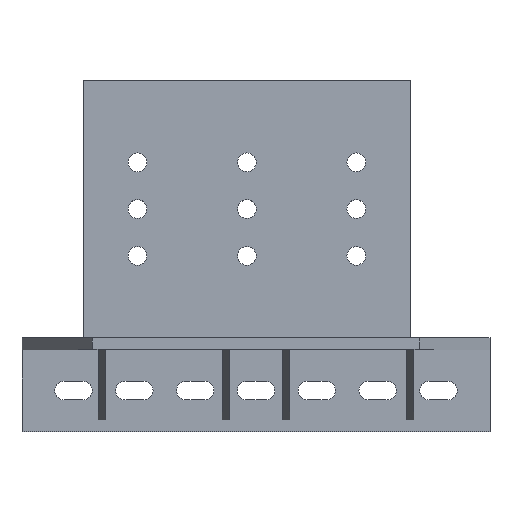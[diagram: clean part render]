
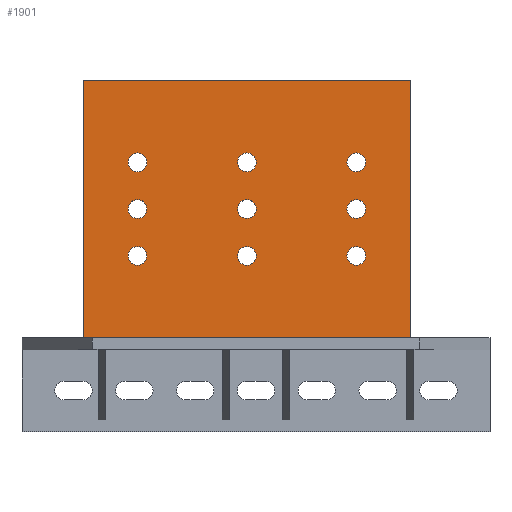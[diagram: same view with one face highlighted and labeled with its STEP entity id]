
A CAD part, top view. The second image highlights one B-rep face of the part: STEP entity #1901.
In plain terms, the highlighted planar face has unit normal (0, 0, 1).
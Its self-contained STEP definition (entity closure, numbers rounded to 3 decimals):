
#57=FACE_BOUND('',#291,.T.);
#58=FACE_BOUND('',#292,.T.);
#59=FACE_BOUND('',#293,.T.);
#60=FACE_BOUND('',#294,.T.);
#61=FACE_BOUND('',#295,.T.);
#62=FACE_BOUND('',#296,.T.);
#63=FACE_BOUND('',#297,.T.);
#64=FACE_BOUND('',#298,.T.);
#65=FACE_BOUND('',#299,.T.);
#93=CIRCLE('',#2014,101.6);
#94=CIRCLE('',#2016,101.6);
#95=CIRCLE('',#2018,101.6);
#96=CIRCLE('',#2020,101.6);
#97=CIRCLE('',#2022,101.6);
#98=CIRCLE('',#2024,101.6);
#99=CIRCLE('',#2026,101.6);
#100=CIRCLE('',#2028,101.6);
#101=CIRCLE('',#2030,101.6);
#176=FACE_OUTER_BOUND('',#290,.T.);
#290=EDGE_LOOP('',(#1436,#1437,#1438,#1439));
#291=EDGE_LOOP('',(#1440));
#292=EDGE_LOOP('',(#1441));
#293=EDGE_LOOP('',(#1442));
#294=EDGE_LOOP('',(#1443));
#295=EDGE_LOOP('',(#1444));
#296=EDGE_LOOP('',(#1445));
#297=EDGE_LOOP('',(#1446));
#298=EDGE_LOOP('',(#1447));
#299=EDGE_LOOP('',(#1448));
#454=LINE('',#2849,#669);
#456=LINE('',#2853,#671);
#458=LINE('',#2857,#673);
#460=LINE('',#2860,#675);
#669=VECTOR('',#2316,25.4);
#671=VECTOR('',#2320,25.4);
#673=VECTOR('',#2324,25.4);
#675=VECTOR('',#2328,25.4);
#859=VERTEX_POINT('',#2810);
#860=VERTEX_POINT('',#2814);
#861=VERTEX_POINT('',#2818);
#862=VERTEX_POINT('',#2822);
#863=VERTEX_POINT('',#2826);
#864=VERTEX_POINT('',#2830);
#865=VERTEX_POINT('',#2834);
#866=VERTEX_POINT('',#2838);
#867=VERTEX_POINT('',#2842);
#868=VERTEX_POINT('',#2846);
#869=VERTEX_POINT('',#2848);
#870=VERTEX_POINT('',#2852);
#871=VERTEX_POINT('',#2856);
#1055=EDGE_CURVE('',#859,#859,#93,.T.);
#1057=EDGE_CURVE('',#860,#860,#94,.T.);
#1059=EDGE_CURVE('',#861,#861,#95,.T.);
#1061=EDGE_CURVE('',#862,#862,#96,.T.);
#1063=EDGE_CURVE('',#863,#863,#97,.T.);
#1065=EDGE_CURVE('',#864,#864,#98,.T.);
#1067=EDGE_CURVE('',#865,#865,#99,.T.);
#1069=EDGE_CURVE('',#866,#866,#100,.T.);
#1071=EDGE_CURVE('',#867,#867,#101,.T.);
#1074=EDGE_CURVE('',#869,#868,#454,.T.);
#1076=EDGE_CURVE('',#870,#869,#456,.T.);
#1078=EDGE_CURVE('',#871,#870,#458,.T.);
#1080=EDGE_CURVE('',#868,#871,#460,.T.);
#1436=ORIENTED_EDGE('',*,*,#1080,.T.);
#1437=ORIENTED_EDGE('',*,*,#1078,.T.);
#1438=ORIENTED_EDGE('',*,*,#1076,.T.);
#1439=ORIENTED_EDGE('',*,*,#1074,.T.);
#1440=ORIENTED_EDGE('',*,*,#1071,.T.);
#1441=ORIENTED_EDGE('',*,*,#1069,.T.);
#1442=ORIENTED_EDGE('',*,*,#1067,.T.);
#1443=ORIENTED_EDGE('',*,*,#1065,.T.);
#1444=ORIENTED_EDGE('',*,*,#1063,.T.);
#1445=ORIENTED_EDGE('',*,*,#1061,.T.);
#1446=ORIENTED_EDGE('',*,*,#1059,.T.);
#1447=ORIENTED_EDGE('',*,*,#1057,.T.);
#1448=ORIENTED_EDGE('',*,*,#1055,.T.);
#1818=PLANE('',#2035);
#1901=ADVANCED_FACE('',(#176,#57,#58,#59,#60,#61,#62,#63,#64,#65),#1818,
 .T.);
#2014=AXIS2_PLACEMENT_3D('',#2811,#2270,#2271);
#2016=AXIS2_PLACEMENT_3D('',#2815,#2275,#2276);
#2018=AXIS2_PLACEMENT_3D('',#2819,#2280,#2281);
#2020=AXIS2_PLACEMENT_3D('',#2823,#2285,#2286);
#2022=AXIS2_PLACEMENT_3D('',#2827,#2290,#2291);
#2024=AXIS2_PLACEMENT_3D('',#2831,#2295,#2296);
#2026=AXIS2_PLACEMENT_3D('',#2835,#2300,#2301);
#2028=AXIS2_PLACEMENT_3D('',#2839,#2305,#2306);
#2030=AXIS2_PLACEMENT_3D('',#2843,#2310,#2311);
#2035=AXIS2_PLACEMENT_3D('',#2861,#2329,#2330);
#2270=DIRECTION('center_axis',(0.,0.,-1.));
#2271=DIRECTION('ref_axis',(0.,-1.,0.));
#2275=DIRECTION('center_axis',(0.,0.,-1.));
#2276=DIRECTION('ref_axis',(0.,1.,0.));
#2280=DIRECTION('center_axis',(0.,0.,-1.));
#2281=DIRECTION('ref_axis',(0.,1.,0.));
#2285=DIRECTION('center_axis',(0.,0.,-1.));
#2286=DIRECTION('ref_axis',(0.,-1.,0.));
#2290=DIRECTION('center_axis',(0.,0.,-1.));
#2291=DIRECTION('ref_axis',(0.,1.,0.));
#2295=DIRECTION('center_axis',(0.,0.,-1.));
#2296=DIRECTION('ref_axis',(0.,-1.,0.));
#2300=DIRECTION('center_axis',(0.,0.,-1.));
#2301=DIRECTION('ref_axis',(0.,1.,0.));
#2305=DIRECTION('center_axis',(0.,0.,-1.));
#2306=DIRECTION('ref_axis',(0.,1.,0.));
#2310=DIRECTION('center_axis',(0.,0.,-1.));
#2311=DIRECTION('ref_axis',(0.,-1.,0.));
#2316=DIRECTION('',(0.,1.,0.));
#2320=DIRECTION('',(1.,0.,0.));
#2324=DIRECTION('',(0.,-1.,0.));
#2328=DIRECTION('',(-1.,0.,0.));
#2329=DIRECTION('center_axis',(0.,0.,1.));
#2330=DIRECTION('ref_axis',(1.,0.,0.));
#2810=CARTESIAN_POINT('',(-2220.519,1934.662,381.));
#2811=CARTESIAN_POINT('Origin',(-2220.519,1833.062,381.));
#2814=CARTESIAN_POINT('',(-3407.969,1731.462,381.));
#2815=CARTESIAN_POINT('Origin',(-3407.969,1833.062,381.));
#2818=CARTESIAN_POINT('',(-2220.519,2239.462,381.));
#2819=CARTESIAN_POINT('Origin',(-2220.519,2341.062,381.));
#2822=CARTESIAN_POINT('',(-2220.519,1426.662,381.));
#2823=CARTESIAN_POINT('Origin',(-2220.519,1325.062,381.));
#2826=CARTESIAN_POINT('',(-3407.969,2239.462,381.));
#2827=CARTESIAN_POINT('Origin',(-3407.969,2341.062,381.));
#2830=CARTESIAN_POINT('',(-3407.969,1426.662,381.));
#2831=CARTESIAN_POINT('Origin',(-3407.969,1325.062,381.));
#2834=CARTESIAN_POINT('',(-4595.419,1731.462,381.));
#2835=CARTESIAN_POINT('Origin',(-4595.419,1833.062,381.));
#2838=CARTESIAN_POINT('',(-4595.419,2239.462,381.));
#2839=CARTESIAN_POINT('Origin',(-4595.419,2341.062,381.));
#2842=CARTESIAN_POINT('',(-4595.419,1426.662,381.));
#2843=CARTESIAN_POINT('Origin',(-4595.419,1325.062,381.));
#2846=CARTESIAN_POINT('',(-1629.969,3230.062,381.));
#2848=CARTESIAN_POINT('',(-1629.969,436.062,381.));
#2849=CARTESIAN_POINT('',(-1629.969,436.062,381.));
#2852=CARTESIAN_POINT('',(-5185.969,436.062,381.));
#2853=CARTESIAN_POINT('',(-5185.969,436.062,381.));
#2856=CARTESIAN_POINT('',(-5185.969,3230.062,381.));
#2857=CARTESIAN_POINT('',(-5185.969,3230.062,381.));
#2860=CARTESIAN_POINT('',(-1629.969,3230.062,381.));
#2861=CARTESIAN_POINT('Origin',(-3407.969,1833.062,381.));
